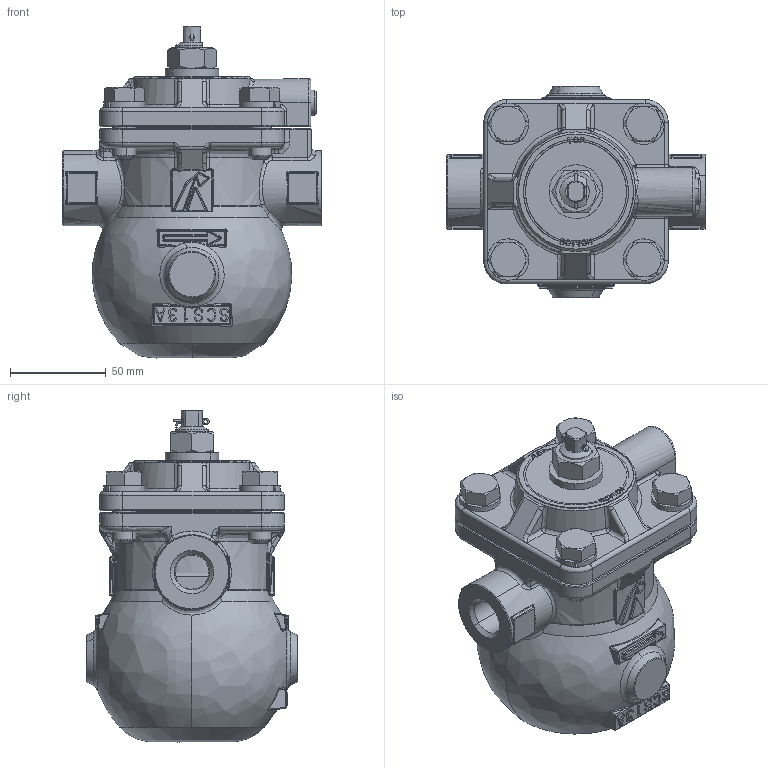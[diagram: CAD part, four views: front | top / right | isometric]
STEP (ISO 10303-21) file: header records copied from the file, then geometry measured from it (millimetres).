
FILE_DESCRIPTION((''),'2;1');
FILE_NAME('','2020-10-13T10:12:42',(''),(''),'','CADfix','');
FILE_SCHEMA(('AUTOMOTIVE_DESIGN { 1 0 10303 214 1 1 1 1 }'));
Length unit declared in the file: millimetre
Products named in the file (13): 　コック 埋め; 本体 15A SW 埋め; ふた 埋め; CP_'_JIS B 1180 呼び径六角ボルト'_17166; CP_'_JIS B 1180 呼び径六角ボルト'_17168; SSLW12; テーパプラグMSWTS2; 3D　TSF-10　割りピン; 3D　TSF-10　銘板文字; 3D　TSF-10　六角ナット; 3D　TSF-10　銘板; 3D　TSF-10　カラー; TSF-10S JISRc 15A_38
Assembly tree (17 placements, depth 2):
  TSF-10S JISRc 15A_38
    　コック 埋め
    本体 15A SW 埋め
    ふた 埋め
    CP_'_JIS B 1180 呼び径六角ボルト'_17166  x3
    CP_'_JIS B 1180 呼び径六角ボルト'_17168
    SSLW12  x4
    テーパプラグMSWTS2
    3D　TSF-10　割りピン
    3D　TSF-10　銘板文字
    3D　TSF-10　六角ナット
    3D　TSF-10　銘板
    3D　TSF-10　カラー
Bounding box: 135 x 110 x 173 mm (x, y, z)
Volume: 1038256.9 mm3; surface area: 115644 mm2
Topology: 17 solids, 17 shells, 1563 faces, 4256 edges, 2706 vertices
Faces by surface type: bspline 1563
Entity records: 74101 total; most frequent: CARTESIAN_POINT 45137, ORIENTED_EDGE 8042, STYLED_ITEM 4977, EDGE_CURVE 4021, VERTEX_POINT 2552, QUASI_UNIFORM_CURVE 1871, B_SPLINE_CURVE_WITH_KNOTS 1821, EDGE_LOOP 1549
